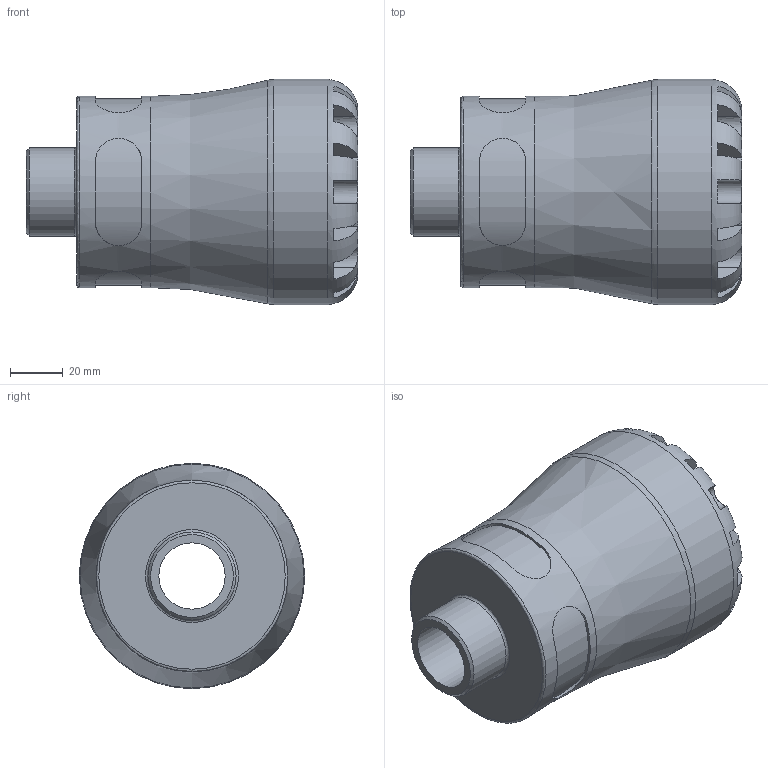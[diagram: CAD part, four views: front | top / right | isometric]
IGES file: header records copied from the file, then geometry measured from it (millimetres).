
Global section: file name: 100200050010_190200050010.ipt; native system: Autodesk Inventor 2015; preprocessor: unknown; author: KIM; date: 20170727.143952; units: millimetre
Bounding box: 125 x 85 x 85 mm (x, y, z)
Volume: 332944 mm3; surface area: 54050 mm2
Topology: 1 solids, 1 shells, 100 faces, 259 edges, 166 vertices
Faces by surface type: plane 60, revolution 24, cylinder 15, cone 1
Full cylindrical faces by diameter (mm): 33.249 x1, 72.25 x1, 85 x1
